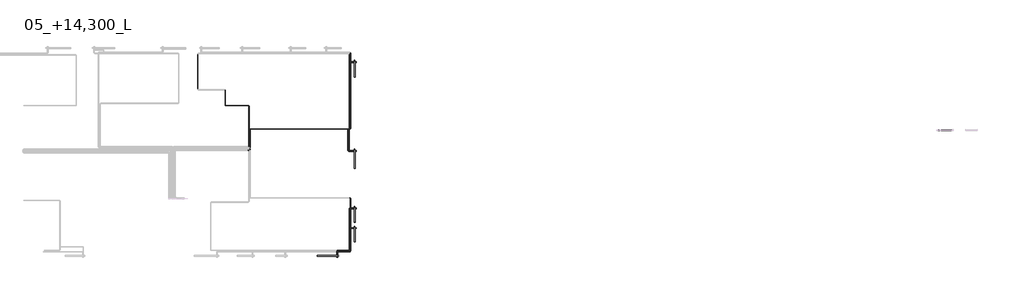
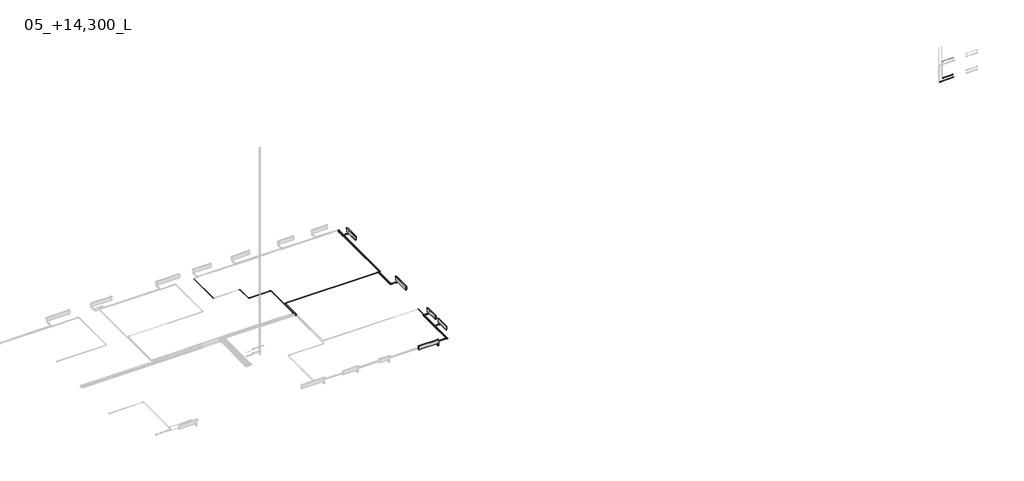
# One storey, part 11 of 15: 33 pipe fittings, 32 pipe segments, 5 proxies, 4 valves.
"""IFC4 building model written with IfcOpenShell, lengths in millimetres."""

from ifc_helpers import new_model, si_unit, point, frame, frame_2d, origin, place, context, project, spatial, circle_curve, trimmed, segment, composite_curve, outline, extrude, transform, mapped, element, save
from components import mechanical_equipment_c0c35615, mechanical_equipment_c68842d5, mechanical_equipment_da64a6a1, mechanical_equipment_6fadb864, pipe_fitting_44bd76dc, pipe_fitting_8f811e63, pipe_fitting_d927fdfb, valve_f5090433, valve_5b696a81, valve_31f837bc

model = new_model("IFC4")

# Units and contexts
model_context = context("Model", 3, world=origin())
ifc_project = project(units=[si_unit("LENGTHUNIT", "METRE", prefix="MILLI")], contexts=[model_context])

# Site, building, storey
site = spatial("IfcSite", under=ifc_project)
building = spatial("IfcBuilding", under=site)
storey = spatial("IfcBuildingStorey", under=building, Name="05_+14,300_L", Elevation=14300.0)

# Proxies
placement = place(None, origin())
mechanical_equipment_shape = mechanical_equipment_c0c35615(model_context)
element("IfcBuildingElementProxy", 1, Name="EVRA CV Д : 21-300-1600", ObjectType="EVRA CV Д : 21-300-1600", at=placement, inside=storey, context=model_context, shape_type="MappedRepresentation", body=[
    mapped(mechanical_equipment_shape, transform((80050.0, 112561.4631102, 14300.0), x_axis=(-1.0, 0.0, 0.0), y_axis=(0.0, -1.0, 0.0), z_axis=(0.0, 0.0, 1.0))),
])
mechanical_equipment_2_shape = mechanical_equipment_c68842d5(model_context)
element("IfcBuildingElementProxy", 2, Name="EVRA CV Д : 21-300-1400", ObjectType="EVRA CV Д : 21-300-1400", at=placement, inside=storey, context=model_context, shape_type="MappedRepresentation", body=[
    mapped(mechanical_equipment_2_shape, transform((81938.5368901, 120140.0000002, 14300.0), x_axis=(0.0, -1.0, 0.0), y_axis=(1.0, 0.0, 0.0), z_axis=(0.0, 0.0, 1.0))),
])
mechanical_equipment_3_shape = mechanical_equipment_da64a6a1(model_context)
element("IfcBuildingElementProxy", 3, Name="EVRA CV Д : 21-300-1200", ObjectType="EVRA CV Д : 21-300-1200", at=placement, inside=storey, context=model_context, shape_type="MappedRepresentation", body=[
    mapped(mechanical_equipment_3_shape, transform((81938.5368898, 127000.0, 14300.0), x_axis=(0.0, -1.0, 0.0), y_axis=(1.0, 0.0, 0.0), z_axis=(0.0, 0.0, 1.0))),
])
mechanical_equipment_4_shape = mechanical_equipment_6fadb864(model_context)
element("IfcBuildingElementProxy", 4, Name="EVRA CV Д : 21-300-1100", ObjectType="EVRA CV Д : 21-300-1100", at=placement, inside=storey, context=model_context, shape_type="MappedRepresentation", body=[
    mapped(mechanical_equipment_4_shape, transform((81938.5368898, 114400.0, 14300.0), x_axis=(0.0, -1.0, 0.0), y_axis=(1.0, 0.0, 0.0), z_axis=(0.0, 0.0, 1.0))),
])
element("IfcBuildingElementProxy", 5, Name="EVRA CV Д : 21-300-1100", ObjectType="EVRA CV Д : 21-300-1100", at=placement, inside=storey, context=model_context, shape_type="MappedRepresentation", body=[
    mapped(mechanical_equipment_4_shape, transform((81938.5368898, 115900.0, 14300.0), x_axis=(0.0, -1.0, 0.0), y_axis=(1.0, 0.0, 0.0), z_axis=(0.0, 0.0, 1.0))),
])

# Pipe fittings
pipe_fitting_shape = pipe_fitting_44bd76dc(model_context)
element("IfcPipeFitting", 6, ObjectType="ADSK_Пресс-фитинг ПЭ_Тройник : Пластик черный", at=placement, inside=storey, context=model_context, shape_type="MappedRepresentation", body=[
    mapped(pipe_fitting_shape, transform((81400.0000006, 122240.0, 14250.0), x_axis=(-1.0, 0.0, 0.0), y_axis=(0.0, 1.0, 0.0), z_axis=(0.0, 0.0, -1.0))),
])
element("IfcPipeFitting", 7, ObjectType="ADSK_Пресс-фитинг ПЭ_Тройник : Пластик черный", at=placement, inside=storey, context=model_context, shape_type="MappedRepresentation", body=[
    mapped(pipe_fitting_shape, transform((81600.0000006, 127320.0, 14250.0), x_axis=(0.0, -1.0, 0.0), y_axis=(-1.0, 0.0, 0.0), z_axis=(0.0, 0.0, -1.0))),
])
element("IfcPipeFitting", 8, ObjectType="ADSK_Пресс-фитинг ПЭ_Тройник : Пластик черный", at=placement, inside=storey, context=model_context, shape_type="MappedRepresentation", body=[
    mapped(pipe_fitting_shape, transform((81600.0000003, 116170.0, 14250.0), x_axis=(0.0, 1.0, 0.0), y_axis=(-1.0, 0.0, 0.0), z_axis=(0.0, 0.0, 1.0))),
])
element("IfcPipeFitting", 9, ObjectType="ADSK_Пресс-фитинг ПЭ_Тройник : Пластик черный", at=placement, inside=storey, context=model_context, shape_type="MappedRepresentation", body=[
    mapped(pipe_fitting_shape, transform((81500.0000006, 127370.0, 14250.0), x_axis=(0.0, 1.0, 0.0), y_axis=(-1.0, 0.0, 0.0), z_axis=(0.0, 0.0, 1.0))),
])
element("IfcPipeFitting", 10, ObjectType="ADSK_Пресс-фитинг ПЭ_Тройник : Пластик черный", at=placement, inside=storey, context=model_context, shape_type="MappedRepresentation", body=[
    mapped(pipe_fitting_shape, transform((81600.0000003, 114670.0, 14250.0), x_axis=(0.0, 1.0, 0.0), y_axis=(-1.0, 0.0, 0.0), z_axis=(0.0, 0.0, 1.0))),
])
element("IfcPipeFitting", 11, ObjectType="ADSK_Пресс-фитинг ПЭ_Тройник : Пластик черный", at=placement, inside=storey, context=model_context, shape_type="MappedRepresentation", body=[
    mapped(pipe_fitting_shape, transform((81500.0000003, 114720.0, 14250.0), x_axis=(0.0, 1.0, 0.0), y_axis=(-1.0, 0.0, 0.0), z_axis=(0.0, 0.0, 1.0))),
])
element("IfcPipeFitting", 12, ObjectType="ADSK_Пресс-фитинг ПЭ_Тройник : Пластик черный", at=placement, inside=storey, context=model_context, shape_type="MappedRepresentation", body=[
    mapped(pipe_fitting_shape, transform((80620.0, 113000.0, 14250.0), x_axis=(1.0, 0.0, 0.0), y_axis=(0.0, 1.0, 0.0), z_axis=(0.0, 0.0, 1.0))),
])
element("IfcPipeFitting", 13, ObjectType="ADSK_Пресс-фитинг ПЭ_Тройник : Пластик черный", at=placement, inside=storey, context=model_context, shape_type="MappedRepresentation", body=[
    mapped(pipe_fitting_shape, transform((80570.0, 112900.0, 14250.0), x_axis=(1.0, 0.0, 0.0), y_axis=(0.0, 1.0, 0.0), z_axis=(0.0, 0.0, 1.0))),
])
pipe_fitting_2_shape = pipe_fitting_8f811e63(model_context)
element("IfcPipeFitting", 14, ObjectType="ADSK_Пресс-фитинг ПЭ_Поворот с фиксатором : Поворот трубы", at=placement, inside=storey, context=model_context, shape_type="MappedRepresentation", body=[
    mapped(pipe_fitting_2_shape, transform((72070.0, 124028.4031807, 14250.0), x_axis=(0.0, -1.0, 0.0), y_axis=(1.0, 0.0, 0.0), z_axis=(0.0, 0.0, 1.0))),
])
element("IfcPipeFitting", 15, ObjectType="ADSK_Пресс-фитинг ПЭ_Поворот с фиксатором : Поворот трубы", at=placement, inside=storey, context=model_context, shape_type="MappedRepresentation", body=[
    mapped(pipe_fitting_2_shape, transform((72070.0, 125228.4031807, 14250.0), x_axis=(0.0, 1.0, 0.0), y_axis=(-1.0, 0.0, 0.0), z_axis=(0.0, 0.0, 1.0))),
])
element("IfcPipeFitting", 16, ObjectType="ADSK_Пресс-фитинг ПЭ_Поворот с фиксатором : Поворот трубы", at=placement, inside=storey, context=model_context, shape_type="MappedRepresentation", body=[
    mapped(pipe_fitting_2_shape, transform((81600.0000006, 122240.0, 14250.0), x_axis=(1.0, 0.0, 0.0), y_axis=(0.0, 1.0, 0.0), z_axis=(0.0, 0.0, 1.0))),
])
element("IfcPipeFitting", 17, ObjectType="ADSK_Пресс-фитинг ПЭ_Поворот с фиксатором : Поворот трубы", at=placement, inside=storey, context=model_context, shape_type="MappedRepresentation", body=[
    mapped(pipe_fitting_2_shape, transform((81600.0000003, 117005.0000002, 14250.0), x_axis=(0.0, 1.0, 0.0), y_axis=(-1.0, 0.0, 0.0), z_axis=(0.0, 0.0, 1.0))),
])
element("IfcPipeFitting", 18, ObjectType="ADSK_Пресс-фитинг ПЭ_Поворот с фиксатором : Поворот трубы", at=placement, inside=storey, context=model_context, shape_type="MappedRepresentation", body=[
    mapped(pipe_fitting_2_shape, transform((81500.0000003, 113000.0, 14250.0), x_axis=(1.0, 0.0, 0.0), y_axis=(0.0, 1.0, 0.0), z_axis=(0.0, 0.0, 1.0))),
])
element("IfcPipeFitting", 19, ObjectType="ADSK_Пресс-фитинг ПЭ_Поворот с фиксатором : Поворот трубы", at=placement, inside=storey, context=model_context, shape_type="MappedRepresentation", body=[
    mapped(pipe_fitting_2_shape, transform((81600.0000003, 112900.0, 14250.0), x_axis=(1.0, 0.0, 0.0), y_axis=(0.0, 1.0, 0.0), z_axis=(0.0, 0.0, 1.0))),
])
element("IfcPipeFitting", 20, ObjectType="ADSK_Пресс-фитинг ПЭ_Поворот с фиксатором : Поворот трубы", at=placement, inside=storey, context=model_context, shape_type="MappedRepresentation", body=[
    mapped(pipe_fitting_2_shape, transform((73870.0, 120921.8369308, 14250.0), x_axis=(1.0, 0.0, 0.0), y_axis=(0.0, 1.0, 0.0), z_axis=(0.0, 0.0, 1.0))),
])
element("IfcPipeFitting", 21, ObjectType="ADSK_Пресс-фитинг ПЭ_Поворот с фиксатором : Поворот трубы", at=placement, inside=storey, context=model_context, shape_type="MappedRepresentation", body=[
    mapped(pipe_fitting_2_shape, transform((73870.0, 124028.4031807, 14250.0), x_axis=(0.0, 1.0, 0.0), y_axis=(-1.0, 0.0, 0.0), z_axis=(0.0, 0.0, 1.0))),
])
element("IfcPipeFitting", 22, ObjectType="ADSK_Пресс-фитинг ПЭ_Поворот с фиксатором : Поворот трубы", at=placement, inside=storey, context=model_context, shape_type="MappedRepresentation", body=[
    mapped(pipe_fitting_2_shape, transform((73970.0, 120821.8369308, 14250.0), x_axis=(1.0, 0.0, 0.0), y_axis=(0.0, 1.0, 0.0), z_axis=(0.0, 0.0, 1.0))),
])
element("IfcPipeFitting", 23, ObjectType="ADSK_Пресс-фитинг ПЭ_Поворот с фиксатором : Поворот трубы", at=placement, inside=storey, context=model_context, shape_type="MappedRepresentation", body=[
    mapped(pipe_fitting_2_shape, transform((73970.0, 122240.0, 14250.0), x_axis=(-1.0, 0.0, 0.0), y_axis=(0.0, -1.0, 0.0), z_axis=(0.0, 0.0, 1.0))),
])
element("IfcPipeFitting", 24, ObjectType="ADSK_Пресс-фитинг ПЭ_Поворот с фиксатором : Поворот трубы", at=placement, inside=storey, context=model_context, shape_type="MappedRepresentation", body=[
    mapped(pipe_fitting_2_shape, transform((73970.0, 120721.8369308, 14250.0), x_axis=(0.0, 1.0, 0.0), y_axis=(-1.0, 0.0, 0.0), z_axis=(0.0, 0.0, 1.0))),
])
element("IfcPipeFitting", 25, ObjectType="ADSK_Пресс-фитинг ПЭ_Поворот с фиксатором : Поворот трубы", at=placement, inside=storey, context=model_context, shape_type="MappedRepresentation", body=[
    mapped(pipe_fitting_2_shape, transform((73870.0, 120621.8369308, 14250.0), x_axis=(0.0, 1.0, 0.0), y_axis=(-1.0, 0.0, 0.0), z_axis=(0.0, 0.0, 1.0))),
])
element("IfcPipeFitting", 26, ObjectType="ADSK_Пресс-фитинг ПЭ_Поворот с фиксатором : Поворот трубы", at=placement, inside=storey, context=model_context, shape_type="MappedRepresentation", body=[
    mapped(pipe_fitting_2_shape, transform((81400.0000006, 120560.0000002, 14250.0), x_axis=(0.0, -1.0, 0.0), y_axis=(1.0, 0.0, 0.0), z_axis=(0.0, 0.0, 1.0))),
])
element("IfcPipeFitting", 27, ObjectType="ADSK_Пресс-фитинг ПЭ_Поворот с фиксатором : Поворот трубы", at=placement, inside=storey, context=model_context, shape_type="MappedRepresentation", body=[
    mapped(pipe_fitting_2_shape, transform((81500.0000006, 120610.0000002, 14250.0), x_axis=(0.0, -1.0, 0.0), y_axis=(1.0, 0.0, 0.0), z_axis=(0.0, 0.0, 1.0))),
])
element("IfcPipeFitting", 28, ObjectType="ADSK_Пресс-фитинг ПЭ_Поворот с фиксатором : Поворот трубы", at=placement, inside=storey, context=model_context, shape_type="MappedRepresentation", body=[
    mapped(pipe_fitting_2_shape, transform((81500.0000003, 116220.0, 14250.0), x_axis=(-1.0, 0.0, 0.0), y_axis=(0.0, -1.0, 0.0), z_axis=(0.0, 0.0, 1.0))),
])
pipe_fitting_3_shape = pipe_fitting_d927fdfb(model_context)
element("IfcPipeFitting", 29, ObjectType="Трубка Г-образная VTm.481.PC из стены : VTm.481.PC", at=placement, inside=storey, context=model_context, shape_type="MappedRepresentation", body=[
    mapped(pipe_fitting_3_shape, transform((81988.0, 127370.0, 14250.0), x_axis=(0.0, -1.0, 0.0), y_axis=(1.0, 0.0, 0.0), z_axis=(0.0, 0.0, 1.0))),
])
element("IfcPipeFitting", 30, ObjectType="Трубка Г-образная VTm.481.PC из стены : VTm.481.PC", at=placement, inside=storey, context=model_context, shape_type="MappedRepresentation", body=[
    mapped(pipe_fitting_3_shape, transform((81988.0, 114720.0, 14250.0), x_axis=(0.0, -1.0, 0.0), y_axis=(1.0, 0.0, 0.0), z_axis=(0.0, 0.0, 1.0))),
])
element("IfcPipeFitting", 31, ObjectType="Трубка Г-образная VTm.481.PC из стены : VTm.481.PC", at=placement, inside=storey, context=model_context, shape_type="MappedRepresentation", body=[
    mapped(pipe_fitting_3_shape, transform((80620.0, 112512.0, 14250.0), x_axis=(-1.0, 0.0, 0.0), y_axis=(0.0, -1.0, 0.0), z_axis=(0.0, 0.0, 1.0))),
])
element("IfcPipeFitting", 32, ObjectType="Трубка Г-образная VTm.481.PC из стены : VTm.481.PC", at=placement, inside=storey, context=model_context, shape_type="MappedRepresentation", body=[
    mapped(pipe_fitting_3_shape, transform((81988.0000003, 120610.0000002, 14250.0), x_axis=(0.0, -1.0, 0.0), y_axis=(1.0, 0.0, 0.0), z_axis=(0.0, 0.0, 1.0))),
])
element("IfcPipeFitting", 33, ObjectType="Трубка Г-образная VTm.481.PC из стены : VTm.481.PC", at=placement, inside=storey, context=model_context, shape_type="MappedRepresentation", body=[
    mapped(pipe_fitting_3_shape, transform((81988.0, 116220.0, 14250.0), x_axis=(0.0, -1.0, 0.0), y_axis=(1.0, 0.0, 0.0), z_axis=(0.0, 0.0, 1.0))),
])
element("IfcPipeFitting", 34, ObjectType="Трубка Г-образная VTm.481.PC из стены : VTm.481.PC", at=placement, inside=storey, context=model_context, shape_type="MappedRepresentation", body=[
    mapped(pipe_fitting_3_shape, transform((81988.0, 127320.0, 14250.0), x_axis=(0.0, -1.0, 0.0), y_axis=(1.0, 0.0, 0.0), z_axis=(0.0, 0.0, 1.0))),
])
element("IfcPipeFitting", 35, ObjectType="Трубка Г-образная VTm.481.PC из стены : VTm.481.PC", at=placement, inside=storey, context=model_context, shape_type="MappedRepresentation", body=[
    mapped(pipe_fitting_3_shape, transform((81988.0, 114670.0, 14250.0), x_axis=(0.0, -1.0, 0.0), y_axis=(1.0, 0.0, 0.0), z_axis=(0.0, 0.0, 1.0))),
])
element("IfcPipeFitting", 36, ObjectType="Трубка Г-образная VTm.481.PC из стены : VTm.481.PC", at=placement, inside=storey, context=model_context, shape_type="MappedRepresentation", body=[
    mapped(pipe_fitting_3_shape, transform((80570.0, 112512.0, 14250.0), x_axis=(-1.0, 0.0, 0.0), y_axis=(0.0, -1.0, 0.0), z_axis=(0.0, 0.0, 1.0))),
])
element("IfcPipeFitting", 37, ObjectType="Трубка Г-образная VTm.481.PC из стены : VTm.481.PC", at=placement, inside=storey, context=model_context, shape_type="MappedRepresentation", body=[
    mapped(pipe_fitting_3_shape, transform((81988.0000003, 120560.0000002, 14250.0), x_axis=(0.0, -1.0, 0.0), y_axis=(1.0, 0.0, 0.0), z_axis=(0.0, 0.0, 1.0))),
])
element("IfcPipeFitting", 38, ObjectType="Трубка Г-образная VTm.481.PC из стены : VTm.481.PC", at=placement, inside=storey, context=model_context, shape_type="MappedRepresentation", body=[
    mapped(pipe_fitting_3_shape, transform((81988.0, 116170.0, 14250.0), x_axis=(0.0, -1.0, 0.0), y_axis=(1.0, 0.0, 0.0), z_axis=(0.0, 0.0, 1.0))),
])

# Pipe segments
element("IfcPipeSegment", 39, ObjectType="ADSK_Полиэтилен сшитый", at=placement, inside=storey, context=model_context, shape_type="SweptSolid", body=[
    extrude(outline(composite_curve([segment(trimmed(circle_curve(frame_2d((14250.0, 81500.0000003)), 8.0), [point((14250.0, 81508.0000003))], [point((14258.0, 81500.0000003))], False, "CARTESIAN"), True, "CONTINUOUS"), segment(trimmed(circle_curve(frame_2d((14250.0, 81500.0000003)), 8.0), [point((14258.0, 81500.0000003))], [point((14250.0, 81492.0000003))], False, "CARTESIAN"), True, "CONTINUOUS"), segment(trimmed(circle_curve(frame_2d((14250.0, 81500.0000003)), 8.0), [point((14250.0, 81492.0000003))], [point((14242.0, 81500.0000003))], False, "CARTESIAN"), True, "CONTINUOUS"), segment(trimmed(circle_curve(frame_2d((14250.0, 81500.0000003)), 8.0), [point((14242.0, 81500.0000003))], [point((14250.0, 81508.0000003))], False, "CARTESIAN"), True, "CONTINUOUS")], self_intersect=False)), frame((0.0, 114740.0, 0.0), z_axis=(0.0, 1.0, 0.0), x_axis=(0.0, 0.0, 1.0)), (0.0, 0.0, 1.0), 1432.0),
])
element("IfcPipeSegment", 40, ObjectType="ADSK_Полиэтилен сшитый", at=placement, inside=storey, context=model_context, shape_type="SweptSolid", body=[
    extrude(outline(composite_curve([segment(trimmed(circle_curve(frame_2d((14250.0, 81600.0000006)), 8.0), [point((14250.0, 81608.0000006))], [point((14258.0, 81600.0000006))], False, "CARTESIAN"), True, "CONTINUOUS"), segment(trimmed(circle_curve(frame_2d((14250.0, 81600.0000006)), 8.0), [point((14258.0, 81600.0000006))], [point((14250.0, 81592.0000006))], False, "CARTESIAN"), True, "CONTINUOUS"), segment(trimmed(circle_curve(frame_2d((14250.0, 81600.0000006)), 8.0), [point((14250.0, 81592.0000006))], [point((14242.0, 81600.0000006))], False, "CARTESIAN"), True, "CONTINUOUS"), segment(trimmed(circle_curve(frame_2d((14250.0, 81600.0000006)), 8.0), [point((14242.0, 81600.0000006))], [point((14250.0, 81608.0000006))], False, "CARTESIAN"), True, "CONTINUOUS")], self_intersect=False)), frame((0.0, 127340.0, 0.0), z_axis=(0.0, 1.0, 0.0), x_axis=(0.0, 0.0, 1.0)), (0.0, 0.0, 1.0), 712.0),
])
element("IfcPipeSegment", 41, ObjectType="ADSK_Полиэтилен сшитый", at=placement, inside=storey, context=model_context, shape_type="SweptSolid", body=[
    extrude(outline(composite_curve([segment(trimmed(circle_curve(frame_2d((14250.0, 73870.0)), 8.0), [point((14250.0, 73878.0))], [point((14258.0, 73870.0))], False, "CARTESIAN"), True, "CONTINUOUS"), segment(trimmed(circle_curve(frame_2d((14250.0, 73870.0)), 8.0), [point((14258.0, 73870.0))], [point((14250.0, 73862.0))], False, "CARTESIAN"), True, "CONTINUOUS"), segment(trimmed(circle_curve(frame_2d((14250.0, 73870.0)), 8.0), [point((14250.0, 73862.0))], [point((14242.0, 73870.0))], False, "CARTESIAN"), True, "CONTINUOUS"), segment(trimmed(circle_curve(frame_2d((14250.0, 73870.0)), 8.0), [point((14242.0, 73870.0))], [point((14250.0, 73878.0))], False, "CARTESIAN"), True, "CONTINUOUS")], self_intersect=False)), frame((0.0, 120969.8369308, 0.0), z_axis=(0.0, 1.0, 0.0), x_axis=(0.0, 0.0, 1.0)), (0.0, 0.0, 1.0), 3010.5662499),
])
element("IfcPipeSegment", 42, ObjectType="ADSK_Полиэтилен сшитый", at=placement, inside=storey, context=model_context, shape_type="SweptSolid", body=[
    extrude(outline(composite_curve([segment(trimmed(circle_curve(frame_2d((124028.4031807, 14250.0)), 8.0), [point((124036.4031807, 14250.0))], [point((124028.4031807, 14242.0))], False, "CARTESIAN"), True, "CONTINUOUS"), segment(trimmed(circle_curve(frame_2d((124028.4031807, 14250.0)), 8.0), [point((124028.4031807, 14242.0))], [point((124020.4031807, 14250.0))], False, "CARTESIAN"), True, "CONTINUOUS"), segment(trimmed(circle_curve(frame_2d((124028.4031807, 14250.0)), 8.0), [point((124020.4031807, 14250.0))], [point((124028.4031807, 14258.0))], False, "CARTESIAN"), True, "CONTINUOUS"), segment(trimmed(circle_curve(frame_2d((124028.4031807, 14250.0)), 8.0), [point((124028.4031807, 14258.0))], [point((124036.4031807, 14250.0))], False, "CARTESIAN"), True, "CONTINUOUS")], self_intersect=False)), frame((72118.0, 0.0, 0.0), z_axis=(1.0, 0.0, 0.0), x_axis=(0.0, 1.0, 0.0)), (0.0, 0.0, 1.0), 1704.0),
])
element("IfcPipeSegment", 43, ObjectType="ADSK_Полиэтилен сшитый", at=placement, inside=storey, context=model_context, shape_type="SweptSolid", body=[
    extrude(outline(composite_curve([segment(trimmed(circle_curve(frame_2d((14250.0, 72070.0)), 8.0), [point((14250.0, 72078.0))], [point((14258.0, 72070.0))], False, "CARTESIAN"), True, "CONTINUOUS"), segment(trimmed(circle_curve(frame_2d((14250.0, 72070.0)), 8.0), [point((14258.0, 72070.0))], [point((14250.0, 72062.0))], False, "CARTESIAN"), True, "CONTINUOUS"), segment(trimmed(circle_curve(frame_2d((14250.0, 72070.0)), 8.0), [point((14250.0, 72062.0))], [point((14242.0, 72070.0))], False, "CARTESIAN"), True, "CONTINUOUS"), segment(trimmed(circle_curve(frame_2d((14250.0, 72070.0)), 8.0), [point((14242.0, 72070.0))], [point((14250.0, 72078.0))], False, "CARTESIAN"), True, "CONTINUOUS")], self_intersect=False)), frame((0.0, 124076.4031807, 0.0), z_axis=(0.0, 1.0, 0.0), x_axis=(0.0, 0.0, 1.0)), (0.0, 0.0, 1.0), 1104.0),
])
element("IfcPipeSegment", 44, ObjectType="ADSK_Полиэтилен сшитый", at=placement, inside=storey, context=model_context, shape_type="SweptSolid", body=[
    extrude(outline(composite_curve([segment(trimmed(circle_curve(frame_2d((14250.0, 69970.0)), 8.0), [point((14250.0, 69978.0))], [point((14258.0, 69970.0))], False, "CARTESIAN"), True, "CONTINUOUS"), segment(trimmed(circle_curve(frame_2d((14250.0, 69970.0)), 8.0), [point((14258.0, 69970.0))], [point((14250.0, 69962.0))], False, "CARTESIAN"), True, "CONTINUOUS"), segment(trimmed(circle_curve(frame_2d((14250.0, 69970.0)), 8.0), [point((14250.0, 69962.0))], [point((14242.0, 69970.0))], False, "CARTESIAN"), True, "CONTINUOUS"), segment(trimmed(circle_curve(frame_2d((14250.0, 69970.0)), 8.0), [point((14242.0, 69970.0))], [point((14250.0, 69978.0))], False, "CARTESIAN"), True, "CONTINUOUS")], self_intersect=False)), frame((0.0, 125276.4031807, 0.0), z_axis=(0.0, 1.0, 0.0), x_axis=(0.0, 0.0, 1.0)), (0.0, 0.0, 1.0), 2675.5968193),
])
element("IfcPipeSegment", 45, ObjectType="ADSK_Полиэтилен сшитый", at=placement, inside=storey, context=model_context, shape_type="SweptSolid", body=[
    extrude(outline(composite_curve([segment(trimmed(circle_curve(frame_2d((14250.0, 73970.0)), 8.0), [point((14250.0, 73978.0))], [point((14258.0, 73970.0))], False, "CARTESIAN"), True, "CONTINUOUS"), segment(trimmed(circle_curve(frame_2d((14250.0, 73970.0)), 8.0), [point((14258.0, 73970.0))], [point((14250.0, 73962.0))], False, "CARTESIAN"), True, "CONTINUOUS"), segment(trimmed(circle_curve(frame_2d((14250.0, 73970.0)), 8.0), [point((14250.0, 73962.0))], [point((14242.0, 73970.0))], False, "CARTESIAN"), True, "CONTINUOUS"), segment(trimmed(circle_curve(frame_2d((14250.0, 73970.0)), 8.0), [point((14242.0, 73970.0))], [point((14250.0, 73978.0))], False, "CARTESIAN"), True, "CONTINUOUS")], self_intersect=False)), frame((0.0, 120869.8369308, 0.0), z_axis=(0.0, 1.0, 0.0), x_axis=(0.0, 0.0, 1.0)), (0.0, 0.0, 1.0), 1322.1630692),
])
element("IfcPipeSegment", 46, ObjectType="ADSK_Полиэтилен сшитый", at=placement, inside=storey, context=model_context, shape_type="SweptSolid", body=[
    extrude(outline(composite_curve([segment(trimmed(circle_curve(frame_2d((120560.0000002, 14250.0)), 8.0), [point((120552.0000002, 14250.0))], [point((120560.0000002, 14258.0))], False, "CARTESIAN"), True, "CONTINUOUS"), segment(trimmed(circle_curve(frame_2d((120560.0000002, 14250.0)), 8.0), [point((120560.0000002, 14258.0))], [point((120568.0000002, 14250.0))], False, "CARTESIAN"), True, "CONTINUOUS"), segment(trimmed(circle_curve(frame_2d((120560.0000002, 14250.0)), 8.0), [point((120568.0000002, 14250.0))], [point((120560.0000002, 14242.0))], False, "CARTESIAN"), True, "CONTINUOUS"), segment(trimmed(circle_curve(frame_2d((120560.0000002, 14250.0)), 8.0), [point((120560.0000002, 14242.0))], [point((120552.0000002, 14250.0))], False, "CARTESIAN"), True, "CONTINUOUS")], self_intersect=False)), frame((81448.0000006, 0.0, 0.0), z_axis=(1.0, 0.0, 0.0), x_axis=(0.0, 1.0, 0.0)), (0.0, 0.0, 1.0), 424.9999997),
])
element("IfcPipeSegment", 47, ObjectType="ADSK_Полиэтилен сшитый", at=placement, inside=storey, context=model_context, shape_type="SweptSolid", body=[
    extrude(outline(composite_curve([segment(trimmed(circle_curve(frame_2d((14250.0, 81400.0000006)), 8.0), [point((14250.0, 81408.0000006))], [point((14258.0, 81400.0000006))], False, "CARTESIAN"), True, "CONTINUOUS"), segment(trimmed(circle_curve(frame_2d((14250.0, 81400.0000006)), 8.0), [point((14258.0, 81400.0000006))], [point((14250.0, 81392.0000006))], False, "CARTESIAN"), True, "CONTINUOUS"), segment(trimmed(circle_curve(frame_2d((14250.0, 81400.0000006)), 8.0), [point((14250.0, 81392.0000006))], [point((14242.0, 81400.0000006))], False, "CARTESIAN"), True, "CONTINUOUS"), segment(trimmed(circle_curve(frame_2d((14250.0, 81400.0000006)), 8.0), [point((14242.0, 81400.0000006))], [point((14250.0, 81408.0000006))], False, "CARTESIAN"), True, "CONTINUOUS")], self_intersect=False)), frame((0.0, 120608.0000002, 0.0), z_axis=(0.0, 1.0, 0.0), x_axis=(0.0, 0.0, 1.0)), (0.0, 0.0, 1.0), 1607.9999998),
])
element("IfcPipeSegment", 48, ObjectType="ADSK_Полиэтилен сшитый", at=placement, inside=storey, context=model_context, shape_type="SweptSolid", body=[
    extrude(outline(composite_curve([segment(trimmed(circle_curve(frame_2d((122240.0, 14250.0)), 8.0), [point((122232.0, 14250.0))], [point((122240.0, 14258.0))], False, "CARTESIAN"), True, "CONTINUOUS"), segment(trimmed(circle_curve(frame_2d((122240.0, 14250.0)), 8.0), [point((122240.0, 14258.0))], [point((122248.0, 14250.0))], False, "CARTESIAN"), True, "CONTINUOUS"), segment(trimmed(circle_curve(frame_2d((122240.0, 14250.0)), 8.0), [point((122248.0, 14250.0))], [point((122240.0, 14242.0))], False, "CARTESIAN"), True, "CONTINUOUS"), segment(trimmed(circle_curve(frame_2d((122240.0, 14250.0)), 8.0), [point((122240.0, 14242.0))], [point((122232.0, 14250.0))], False, "CARTESIAN"), True, "CONTINUOUS")], self_intersect=False)), frame((81419.0000006, 0.0, 0.0), z_axis=(1.0, 0.0, 0.0), x_axis=(0.0, 1.0, 0.0)), (0.0, 0.0, 1.0), 133.0),
])
element("IfcPipeSegment", 49, ObjectType="ADSK_Полиэтилен сшитый", at=placement, inside=storey, context=model_context, shape_type="SweptSolid", body=[
    extrude(outline(composite_curve([segment(trimmed(circle_curve(frame_2d((122240.0, 14250.0)), 8.0), [point((122232.0, 14250.0))], [point((122240.0, 14258.0))], False, "CARTESIAN"), True, "CONTINUOUS"), segment(trimmed(circle_curve(frame_2d((122240.0, 14250.0)), 8.0), [point((122240.0, 14258.0))], [point((122248.0, 14250.0))], False, "CARTESIAN"), True, "CONTINUOUS"), segment(trimmed(circle_curve(frame_2d((122240.0, 14250.0)), 8.0), [point((122248.0, 14250.0))], [point((122240.0, 14242.0))], False, "CARTESIAN"), True, "CONTINUOUS"), segment(trimmed(circle_curve(frame_2d((122240.0, 14250.0)), 8.0), [point((122240.0, 14242.0))], [point((122232.0, 14250.0))], False, "CARTESIAN"), True, "CONTINUOUS")], self_intersect=False)), frame((74018.0, 0.0, 0.0), z_axis=(1.0, 0.0, 0.0), x_axis=(0.0, 1.0, 0.0)), (0.0, 0.0, 1.0), 7362.0000006),
])
element("IfcPipeSegment", 50, ObjectType="ADSK_Полиэтилен сшитый", at=placement, inside=storey, context=model_context, shape_type="SweptSolid", body=[
    extrude(outline(composite_curve([segment(trimmed(circle_curve(frame_2d((120610.0000002, 14250.0)), 8.0), [point((120602.0000002, 14250.0))], [point((120610.0000002, 14258.0))], False, "CARTESIAN"), True, "CONTINUOUS"), segment(trimmed(circle_curve(frame_2d((120610.0000002, 14250.0)), 8.0), [point((120610.0000002, 14258.0))], [point((120618.0000002, 14250.0))], False, "CARTESIAN"), True, "CONTINUOUS"), segment(trimmed(circle_curve(frame_2d((120610.0000002, 14250.0)), 8.0), [point((120618.0000002, 14250.0))], [point((120610.0000002, 14242.0))], False, "CARTESIAN"), True, "CONTINUOUS"), segment(trimmed(circle_curve(frame_2d((120610.0000002, 14250.0)), 8.0), [point((120610.0000002, 14242.0))], [point((120602.0000002, 14250.0))], False, "CARTESIAN"), True, "CONTINUOUS")], self_intersect=False)), frame((81548.0000006, 0.0, 0.0), z_axis=(1.0, 0.0, 0.0), x_axis=(0.0, 1.0, 0.0)), (0.0, 0.0, 1.0), 324.9999997),
])
element("IfcPipeSegment", 51, ObjectType="ADSK_Полиэтилен сшитый", at=placement, inside=storey, context=model_context, shape_type="SweptSolid", body=[
    extrude(outline(composite_curve([segment(trimmed(circle_curve(frame_2d((14250.0, 81500.0000006)), 8.0), [point((14250.0, 81492.0000006))], [point((14242.0, 81500.0000006))], False, "CARTESIAN"), True, "CONTINUOUS"), segment(trimmed(circle_curve(frame_2d((14250.0, 81500.0000006)), 8.0), [point((14242.0, 81500.0000006))], [point((14250.0, 81508.0000006))], False, "CARTESIAN"), True, "CONTINUOUS"), segment(trimmed(circle_curve(frame_2d((14250.0, 81500.0000006)), 8.0), [point((14250.0, 81508.0000006))], [point((14258.0, 81500.0000006))], False, "CARTESIAN"), True, "CONTINUOUS"), segment(trimmed(circle_curve(frame_2d((14250.0, 81500.0000006)), 8.0), [point((14258.0, 81500.0000006))], [point((14250.0, 81492.0000006))], False, "CARTESIAN"), True, "CONTINUOUS")], self_intersect=False)), frame((0.0, 120658.0000002, 0.0), z_axis=(0.0, 1.0, 0.0), x_axis=(0.0, 0.0, 1.0)), (0.0, 0.0, 1.0), 6691.9999998),
])
element("IfcPipeSegment", 52, ObjectType="ADSK_Полиэтилен сшитый", at=placement, inside=storey, context=model_context, shape_type="SweptSolid", body=[
    extrude(outline(composite_curve([segment(trimmed(circle_curve(frame_2d((127320.0, 14250.0)), 8.0), [point((127312.0, 14250.0))], [point((127320.0, 14258.0))], False, "CARTESIAN"), True, "CONTINUOUS"), segment(trimmed(circle_curve(frame_2d((127320.0, 14250.0)), 8.0), [point((127320.0, 14258.0))], [point((127328.0, 14250.0))], False, "CARTESIAN"), True, "CONTINUOUS"), segment(trimmed(circle_curve(frame_2d((127320.0, 14250.0)), 8.0), [point((127328.0, 14250.0))], [point((127320.0, 14242.0))], False, "CARTESIAN"), True, "CONTINUOUS"), segment(trimmed(circle_curve(frame_2d((127320.0, 14250.0)), 8.0), [point((127320.0, 14242.0))], [point((127312.0, 14250.0))], False, "CARTESIAN"), True, "CONTINUOUS")], self_intersect=False)), frame((81624.0000006, 0.0, 0.0), z_axis=(1.0, 0.0, 0.0), x_axis=(0.0, 1.0, 0.0)), (0.0, 0.0, 1.0), 248.9999994),
])
element("IfcPipeSegment", 53, ObjectType="ADSK_Полиэтилен сшитый", at=placement, inside=storey, context=model_context, shape_type="SweptSolid", body=[
    extrude(outline(composite_curve([segment(trimmed(circle_curve(frame_2d((14250.0, 81600.0000006)), 8.0), [point((14250.0, 81608.0000006))], [point((14258.0, 81600.0000006))], False, "CARTESIAN"), True, "CONTINUOUS"), segment(trimmed(circle_curve(frame_2d((14250.0, 81600.0000006)), 8.0), [point((14258.0, 81600.0000006))], [point((14250.0, 81592.0000006))], False, "CARTESIAN"), True, "CONTINUOUS"), segment(trimmed(circle_curve(frame_2d((14250.0, 81600.0000006)), 8.0), [point((14250.0, 81592.0000006))], [point((14242.0, 81600.0000006))], False, "CARTESIAN"), True, "CONTINUOUS"), segment(trimmed(circle_curve(frame_2d((14250.0, 81600.0000006)), 8.0), [point((14242.0, 81600.0000006))], [point((14250.0, 81608.0000006))], False, "CARTESIAN"), True, "CONTINUOUS")], self_intersect=False)), frame((0.0, 122288.0, 0.0), z_axis=(0.0, 1.0, 0.0), x_axis=(0.0, 0.0, 1.0)), (0.0, 0.0, 1.0), 5012.0),
])
element("IfcPipeSegment", 54, ObjectType="ADSK_Полиэтилен сшитый", at=placement, inside=storey, context=model_context, shape_type="SweptSolid", body=[
    extrude(outline(composite_curve([segment(trimmed(circle_curve(frame_2d((127370.0, 14250.0)), 8.0), [point((127362.0, 14250.0))], [point((127370.0, 14258.0))], False, "CARTESIAN"), True, "CONTINUOUS"), segment(trimmed(circle_curve(frame_2d((127370.0, 14250.0)), 8.0), [point((127370.0, 14258.0))], [point((127378.0, 14250.0))], False, "CARTESIAN"), True, "CONTINUOUS"), segment(trimmed(circle_curve(frame_2d((127370.0, 14250.0)), 8.0), [point((127378.0, 14250.0))], [point((127370.0, 14242.0))], False, "CARTESIAN"), True, "CONTINUOUS"), segment(trimmed(circle_curve(frame_2d((127370.0, 14250.0)), 8.0), [point((127370.0, 14242.0))], [point((127362.0, 14250.0))], False, "CARTESIAN"), True, "CONTINUOUS")], self_intersect=False)), frame((81524.0000006, 0.0, 0.0), z_axis=(1.0, 0.0, 0.0), x_axis=(0.0, 1.0, 0.0)), (0.0, 0.0, 1.0), 348.9999994),
])
element("IfcPipeSegment", 55, ObjectType="ADSK_Полиэтилен сшитый", at=placement, inside=storey, context=model_context, shape_type="SweptSolid", body=[
    extrude(outline(composite_curve([segment(trimmed(circle_curve(frame_2d((116170.0, 14250.0)), 8.0), [point((116162.0, 14250.0))], [point((116170.0, 14258.0))], False, "CARTESIAN"), True, "CONTINUOUS"), segment(trimmed(circle_curve(frame_2d((116170.0, 14250.0)), 8.0), [point((116170.0, 14258.0))], [point((116178.0, 14250.0))], False, "CARTESIAN"), True, "CONTINUOUS"), segment(trimmed(circle_curve(frame_2d((116170.0, 14250.0)), 8.0), [point((116178.0, 14250.0))], [point((116170.0, 14242.0))], False, "CARTESIAN"), True, "CONTINUOUS"), segment(trimmed(circle_curve(frame_2d((116170.0, 14250.0)), 8.0), [point((116170.0, 14242.0))], [point((116162.0, 14250.0))], False, "CARTESIAN"), True, "CONTINUOUS")], self_intersect=False)), frame((81624.0000003, 0.0, 0.0), z_axis=(1.0, 0.0, 0.0), x_axis=(0.0, 1.0, 0.0)), (0.0, 0.0, 1.0), 248.9999997),
])
element("IfcPipeSegment", 56, ObjectType="ADSK_Полиэтилен сшитый", at=placement, inside=storey, context=model_context, shape_type="SweptSolid", body=[
    extrude(outline(composite_curve([segment(trimmed(circle_curve(frame_2d((14250.0, 81600.0000003)), 8.0), [point((14250.0, 81592.0000003))], [point((14242.0, 81600.0000003))], False, "CARTESIAN"), True, "CONTINUOUS"), segment(trimmed(circle_curve(frame_2d((14250.0, 81600.0000003)), 8.0), [point((14242.0, 81600.0000003))], [point((14250.0, 81608.0000003))], False, "CARTESIAN"), True, "CONTINUOUS"), segment(trimmed(circle_curve(frame_2d((14250.0, 81600.0000003)), 8.0), [point((14250.0, 81608.0000003))], [point((14258.0, 81600.0000003))], False, "CARTESIAN"), True, "CONTINUOUS"), segment(trimmed(circle_curve(frame_2d((14250.0, 81600.0000003)), 8.0), [point((14258.0, 81600.0000003))], [point((14250.0, 81592.0000003))], False, "CARTESIAN"), True, "CONTINUOUS")], self_intersect=False)), frame((0.0, 116190.0, 0.0), z_axis=(0.0, 1.0, 0.0), x_axis=(0.0, 0.0, 1.0)), (0.0, 0.0, 1.0), 767.0000002),
])
element("IfcPipeSegment", 57, ObjectType="ADSK_Полиэтилен сшитый", at=placement, inside=storey, context=model_context, shape_type="SweptSolid", body=[
    extrude(outline(composite_curve([segment(trimmed(circle_curve(frame_2d((116220.0, 14250.0)), 8.0), [point((116212.0, 14250.0))], [point((116220.0, 14258.0))], False, "CARTESIAN"), True, "CONTINUOUS"), segment(trimmed(circle_curve(frame_2d((116220.0, 14250.0)), 8.0), [point((116220.0, 14258.0))], [point((116228.0, 14250.0))], False, "CARTESIAN"), True, "CONTINUOUS"), segment(trimmed(circle_curve(frame_2d((116220.0, 14250.0)), 8.0), [point((116228.0, 14250.0))], [point((116220.0, 14242.0))], False, "CARTESIAN"), True, "CONTINUOUS"), segment(trimmed(circle_curve(frame_2d((116220.0, 14250.0)), 8.0), [point((116220.0, 14242.0))], [point((116212.0, 14250.0))], False, "CARTESIAN"), True, "CONTINUOUS")], self_intersect=False)), frame((81548.0000003, 0.0, 0.0), z_axis=(1.0, 0.0, 0.0), x_axis=(0.0, 1.0, 0.0)), (0.0, 0.0, 1.0), 324.9999997),
])
element("IfcPipeSegment", 58, ObjectType="ADSK_Полиэтилен сшитый", at=placement, inside=storey, context=model_context, shape_type="SweptSolid", body=[
    extrude(outline(composite_curve([segment(trimmed(circle_curve(frame_2d((114720.0, 14250.0)), 8.0), [point((114712.0, 14250.0))], [point((114720.0, 14258.0))], False, "CARTESIAN"), True, "CONTINUOUS"), segment(trimmed(circle_curve(frame_2d((114720.0, 14250.0)), 8.0), [point((114720.0, 14258.0))], [point((114728.0, 14250.0))], False, "CARTESIAN"), True, "CONTINUOUS"), segment(trimmed(circle_curve(frame_2d((114720.0, 14250.0)), 8.0), [point((114728.0, 14250.0))], [point((114720.0, 14242.0))], False, "CARTESIAN"), True, "CONTINUOUS"), segment(trimmed(circle_curve(frame_2d((114720.0, 14250.0)), 8.0), [point((114720.0, 14242.0))], [point((114712.0, 14250.0))], False, "CARTESIAN"), True, "CONTINUOUS")], self_intersect=False)), frame((81524.0000003, 0.0, 0.0), z_axis=(1.0, 0.0, 0.0), x_axis=(0.0, 1.0, 0.0)), (0.0, 0.0, 1.0), 348.9999997),
])
element("IfcPipeSegment", 59, ObjectType="ADSK_Полиэтилен сшитый", at=placement, inside=storey, context=model_context, shape_type="SweptSolid", body=[
    extrude(outline(composite_curve([segment(trimmed(circle_curve(frame_2d((114670.0, 14250.0)), 8.0), [point((114662.0, 14250.0))], [point((114670.0, 14258.0))], False, "CARTESIAN"), True, "CONTINUOUS"), segment(trimmed(circle_curve(frame_2d((114670.0, 14250.0)), 8.0), [point((114670.0, 14258.0))], [point((114678.0, 14250.0))], False, "CARTESIAN"), True, "CONTINUOUS"), segment(trimmed(circle_curve(frame_2d((114670.0, 14250.0)), 8.0), [point((114678.0, 14250.0))], [point((114670.0, 14242.0))], False, "CARTESIAN"), True, "CONTINUOUS"), segment(trimmed(circle_curve(frame_2d((114670.0, 14250.0)), 8.0), [point((114670.0, 14242.0))], [point((114662.0, 14250.0))], False, "CARTESIAN"), True, "CONTINUOUS")], self_intersect=False)), frame((81624.0000003, 0.0, 0.0), z_axis=(1.0, 0.0, 0.0), x_axis=(0.0, 1.0, 0.0)), (0.0, 0.0, 1.0), 248.9999997),
])
element("IfcPipeSegment", 60, ObjectType="ADSK_Полиэтилен сшитый", at=placement, inside=storey, context=model_context, shape_type="SweptSolid", body=[
    extrude(outline(composite_curve([segment(trimmed(circle_curve(frame_2d((14250.0, 81600.0000003)), 8.0), [point((14250.0, 81592.0000003))], [point((14242.0, 81600.0000003))], False, "CARTESIAN"), True, "CONTINUOUS"), segment(trimmed(circle_curve(frame_2d((14250.0, 81600.0000003)), 8.0), [point((14242.0, 81600.0000003))], [point((14250.0, 81608.0000003))], False, "CARTESIAN"), True, "CONTINUOUS"), segment(trimmed(circle_curve(frame_2d((14250.0, 81600.0000003)), 8.0), [point((14250.0, 81608.0000003))], [point((14258.0, 81600.0000003))], False, "CARTESIAN"), True, "CONTINUOUS"), segment(trimmed(circle_curve(frame_2d((14250.0, 81600.0000003)), 8.0), [point((14258.0, 81600.0000003))], [point((14250.0, 81592.0000003))], False, "CARTESIAN"), True, "CONTINUOUS")], self_intersect=False)), frame((0.0, 112948.0, 0.0), z_axis=(0.0, 1.0, 0.0), x_axis=(0.0, 0.0, 1.0)), (0.0, 0.0, 1.0), 1702.0),
])
element("IfcPipeSegment", 61, ObjectType="ADSK_Полиэтилен сшитый", at=placement, inside=storey, context=model_context, shape_type="SweptSolid", body=[
    extrude(outline(composite_curve([segment(trimmed(circle_curve(frame_2d((14250.0, 80570.0)), 8.0), [point((14250.0, 80562.0))], [point((14242.0, 80570.0))], False, "CARTESIAN"), True, "CONTINUOUS"), segment(trimmed(circle_curve(frame_2d((14250.0, 80570.0)), 8.0), [point((14242.0, 80570.0))], [point((14250.0, 80578.0))], False, "CARTESIAN"), True, "CONTINUOUS"), segment(trimmed(circle_curve(frame_2d((14250.0, 80570.0)), 8.0), [point((14250.0, 80578.0))], [point((14258.0, 80570.0))], False, "CARTESIAN"), True, "CONTINUOUS"), segment(trimmed(circle_curve(frame_2d((14250.0, 80570.0)), 8.0), [point((14258.0, 80570.0))], [point((14250.0, 80562.0))], False, "CARTESIAN"), True, "CONTINUOUS")], self_intersect=False)), frame((0.0, 112627.0, 0.0), z_axis=(0.0, 1.0, 0.0), x_axis=(0.0, 0.0, 1.0)), (0.0, 0.0, 1.0), 247.0),
])
element("IfcPipeSegment", 62, ObjectType="ADSK_Полиэтилен сшитый", at=placement, inside=storey, context=model_context, shape_type="SweptSolid", body=[
    extrude(outline(composite_curve([segment(trimmed(circle_curve(frame_2d((14250.0, 80620.0)), 8.0), [point((14250.0, 80612.0))], [point((14242.0, 80620.0))], False, "CARTESIAN"), True, "CONTINUOUS"), segment(trimmed(circle_curve(frame_2d((14250.0, 80620.0)), 8.0), [point((14242.0, 80620.0))], [point((14250.0, 80628.0))], False, "CARTESIAN"), True, "CONTINUOUS"), segment(trimmed(circle_curve(frame_2d((14250.0, 80620.0)), 8.0), [point((14250.0, 80628.0))], [point((14258.0, 80620.0))], False, "CARTESIAN"), True, "CONTINUOUS"), segment(trimmed(circle_curve(frame_2d((14250.0, 80620.0)), 8.0), [point((14258.0, 80620.0))], [point((14250.0, 80612.0))], False, "CARTESIAN"), True, "CONTINUOUS")], self_intersect=False)), frame((0.0, 112627.0, 0.0), z_axis=(0.0, 1.0, 0.0), x_axis=(0.0, 0.0, 1.0)), (0.0, 0.0, 1.0), 349.0),
])
element("IfcPipeSegment", 63, ObjectType="ADSK_Полиэтилен сшитый", at=placement, inside=storey, context=model_context, shape_type="SweptSolid", body=[
    extrude(outline(composite_curve([segment(trimmed(circle_curve(frame_2d((14250.0, 81500.0000006)), 8.0), [point((14250.0, 81492.0000006))], [point((14242.0, 81500.0000006))], False, "CARTESIAN"), True, "CONTINUOUS"), segment(trimmed(circle_curve(frame_2d((14250.0, 81500.0000006)), 8.0), [point((14242.0, 81500.0000006))], [point((14250.0, 81508.0000006))], False, "CARTESIAN"), True, "CONTINUOUS"), segment(trimmed(circle_curve(frame_2d((14250.0, 81500.0000006)), 8.0), [point((14250.0, 81508.0000006))], [point((14258.0, 81500.0000006))], False, "CARTESIAN"), True, "CONTINUOUS"), segment(trimmed(circle_curve(frame_2d((14250.0, 81500.0000006)), 8.0), [point((14258.0, 81500.0000006))], [point((14250.0, 81492.0000006))], False, "CARTESIAN"), True, "CONTINUOUS")], self_intersect=False)), frame((0.0, 127390.0, 0.0), z_axis=(0.0, 1.0, 0.0), x_axis=(0.0, 0.0, 1.0)), (0.0, 0.0, 1.0), 562.0),
])
element("IfcPipeSegment", 64, ObjectType="ADSK_Полиэтилен сшитый", at=placement, inside=storey, context=model_context, shape_type="SweptSolid", body=[
    extrude(outline(composite_curve([segment(trimmed(circle_curve(frame_2d((14250.0, 81600.0000003)), 8.0), [point((14250.0, 81592.0000003))], [point((14242.0, 81600.0000003))], False, "CARTESIAN"), True, "CONTINUOUS"), segment(trimmed(circle_curve(frame_2d((14250.0, 81600.0000003)), 8.0), [point((14242.0, 81600.0000003))], [point((14250.0, 81608.0000003))], False, "CARTESIAN"), True, "CONTINUOUS"), segment(trimmed(circle_curve(frame_2d((14250.0, 81600.0000003)), 8.0), [point((14250.0, 81608.0000003))], [point((14258.0, 81600.0000003))], False, "CARTESIAN"), True, "CONTINUOUS"), segment(trimmed(circle_curve(frame_2d((14250.0, 81600.0000003)), 8.0), [point((14258.0, 81600.0000003))], [point((14250.0, 81592.0000003))], False, "CARTESIAN"), True, "CONTINUOUS")], self_intersect=False)), frame((0.0, 114690.0, 0.0), z_axis=(0.0, 1.0, 0.0), x_axis=(0.0, 0.0, 1.0)), (0.0, 0.0, 1.0), 1460.0),
])
element("IfcPipeSegment", 65, ObjectType="ADSK_Полиэтилен сшитый", at=placement, inside=storey, context=model_context, shape_type="SweptSolid", body=[
    extrude(outline(composite_curve([segment(trimmed(circle_curve(frame_2d((14250.0, 81500.0000003)), 8.0), [point((14250.0, 81508.0000003))], [point((14258.0, 81500.0000003))], False, "CARTESIAN"), True, "CONTINUOUS"), segment(trimmed(circle_curve(frame_2d((14250.0, 81500.0000003)), 8.0), [point((14258.0, 81500.0000003))], [point((14250.0, 81492.0000003))], False, "CARTESIAN"), True, "CONTINUOUS"), segment(trimmed(circle_curve(frame_2d((14250.0, 81500.0000003)), 8.0), [point((14250.0, 81492.0000003))], [point((14242.0, 81500.0000003))], False, "CARTESIAN"), True, "CONTINUOUS"), segment(trimmed(circle_curve(frame_2d((14250.0, 81500.0000003)), 8.0), [point((14242.0, 81500.0000003))], [point((14250.0, 81508.0000003))], False, "CARTESIAN"), True, "CONTINUOUS")], self_intersect=False)), frame((0.0, 113048.0, 0.0), z_axis=(0.0, 1.0, 0.0), x_axis=(0.0, 0.0, 1.0)), (0.0, 0.0, 1.0), 1652.0),
])
element("IfcPipeSegment", 66, ObjectType="ADSK_Полиэтилен сшитый", at=placement, inside=storey, context=model_context, shape_type="SweptSolid", body=[
    extrude(outline(composite_curve([segment(trimmed(circle_curve(frame_2d((113000.0, 14250.0)), 8.0), [point((113008.0, 14250.0))], [point((113000.0, 14242.0))], False, "CARTESIAN"), True, "CONTINUOUS"), segment(trimmed(circle_curve(frame_2d((113000.0, 14250.0)), 8.0), [point((113000.0, 14242.0))], [point((112992.0, 14250.0))], False, "CARTESIAN"), True, "CONTINUOUS"), segment(trimmed(circle_curve(frame_2d((113000.0, 14250.0)), 8.0), [point((112992.0, 14250.0))], [point((113000.0, 14258.0))], False, "CARTESIAN"), True, "CONTINUOUS"), segment(trimmed(circle_curve(frame_2d((113000.0, 14250.0)), 8.0), [point((113000.0, 14258.0))], [point((113008.0, 14250.0))], False, "CARTESIAN"), True, "CONTINUOUS")], self_intersect=False)), frame((80640.0, 0.0, 0.0), z_axis=(1.0, 0.0, 0.0), x_axis=(0.0, 1.0, 0.0)), (0.0, 0.0, 1.0), 812.0000003),
])
element("IfcPipeSegment", 67, ObjectType="ADSK_Полиэтилен сшитый", at=placement, inside=storey, context=model_context, shape_type="SweptSolid", body=[
    extrude(outline(composite_curve([segment(trimmed(circle_curve(frame_2d((112900.0, 14250.0)), 8.0), [point((112908.0, 14250.0))], [point((112900.0, 14242.0))], False, "CARTESIAN"), True, "CONTINUOUS"), segment(trimmed(circle_curve(frame_2d((112900.0, 14250.0)), 8.0), [point((112900.0, 14242.0))], [point((112892.0, 14250.0))], False, "CARTESIAN"), True, "CONTINUOUS"), segment(trimmed(circle_curve(frame_2d((112900.0, 14250.0)), 8.0), [point((112892.0, 14250.0))], [point((112900.0, 14258.0))], False, "CARTESIAN"), True, "CONTINUOUS"), segment(trimmed(circle_curve(frame_2d((112900.0, 14250.0)), 8.0), [point((112900.0, 14258.0))], [point((112908.0, 14250.0))], False, "CARTESIAN"), True, "CONTINUOUS")], self_intersect=False)), frame((80589.0, 0.0, 0.0), z_axis=(1.0, 0.0, 0.0), x_axis=(0.0, 1.0, 0.0)), (0.0, 0.0, 1.0), 963.0000003),
])
element("IfcPipeSegment", 68, ObjectType="ADSK_Сталь водогазопроводная_Неоцинкованная_ГОСТ 3262-75", at=placement, inside=storey, context=model_context, shape_type="SweptSolid", body=[
    extrude(outline(composite_curve([segment(trimmed(circle_curve(frame_2d((122162.9446989, 14940.0037092)), 16.75), [point((122146.1946989, 14940.0037092))], [point((122162.9446989, 14956.7537092))], False, "CARTESIAN"), True, "CONTINUOUS"), segment(trimmed(circle_curve(frame_2d((122162.9446989, 14940.0037092)), 16.75), [point((122162.9446989, 14956.7537092))], [point((122179.6946989, 14940.0037092))], False, "CARTESIAN"), True, "CONTINUOUS"), segment(trimmed(circle_curve(frame_2d((122162.9446989, 14940.0037092)), 16.75), [point((122179.6946989, 14940.0037092))], [point((122162.9446989, 14923.2537092))], False, "CARTESIAN"), True, "CONTINUOUS"), segment(trimmed(circle_curve(frame_2d((122162.9446989, 14940.0037092)), 16.75), [point((122162.9446989, 14923.2537092))], [point((122146.1946989, 14940.0037092))], False, "CARTESIAN"), True, "CONTINUOUS")], self_intersect=False)), frame((126486.9788458, 0.0, 0.0), z_axis=(1.0, 0.0, 0.0), x_axis=(0.0, 1.0, 0.0)), (0.0, 0.0, 1.0), 852.4582456),
])
element("IfcPipeSegment", 69, ObjectType="ADSK_Сталь водогазопроводная_Неоцинкованная_ГОСТ 3262-75", at=placement, inside=storey, context=model_context, shape_type="SweptSolid", body=[
    extrude(outline(composite_curve([segment(trimmed(circle_curve(frame_2d((122162.9446989, 14700.0037092)), 16.75), [point((122146.1946989, 14700.0037092))], [point((122162.9446989, 14716.7537092))], False, "CARTESIAN"), True, "CONTINUOUS"), segment(trimmed(circle_curve(frame_2d((122162.9446989, 14700.0037092)), 16.75), [point((122162.9446989, 14716.7537092))], [point((122179.6946989, 14700.0037092))], False, "CARTESIAN"), True, "CONTINUOUS"), segment(trimmed(circle_curve(frame_2d((122162.9446989, 14700.0037092)), 16.75), [point((122179.6946989, 14700.0037092))], [point((122162.9446989, 14683.2537092))], False, "CARTESIAN"), True, "CONTINUOUS"), segment(trimmed(circle_curve(frame_2d((122162.9446989, 14700.0037092)), 16.75), [point((122162.9446989, 14683.2537092))], [point((122146.1946989, 14700.0037092))], False, "CARTESIAN"), True, "CONTINUOUS")], self_intersect=False)), frame((126246.9788458, 0.0, 0.0), z_axis=(1.0, 0.0, 0.0), x_axis=(0.0, 1.0, 0.0)), (0.0, 0.0, 1.0), 1142.4582456),
])
element("IfcPipeSegment", 70, ObjectType="ADSK_Сталь водогазопроводная_Неоцинкованная_ГОСТ 3262-75", at=placement, inside=storey, context=model_context, shape_type="SweptSolid", body=[
    extrude(outline(composite_curve([segment(trimmed(circle_curve(frame_2d((122162.9446989, 16340.0037092)), 16.75), [point((122146.1946989, 16340.0037092))], [point((122162.9446989, 16356.7537092))], False, "CARTESIAN"), True, "CONTINUOUS"), segment(trimmed(circle_curve(frame_2d((122162.9446989, 16340.0037092)), 16.75), [point((122162.9446989, 16356.7537092))], [point((122179.6946989, 16340.0037092))], False, "CARTESIAN"), True, "CONTINUOUS"), segment(trimmed(circle_curve(frame_2d((122162.9446989, 16340.0037092)), 16.75), [point((122179.6946989, 16340.0037092))], [point((122162.9446989, 16323.2537092))], False, "CARTESIAN"), True, "CONTINUOUS"), segment(trimmed(circle_curve(frame_2d((122162.9446989, 16340.0037092)), 16.75), [point((122162.9446989, 16323.2537092))], [point((122146.1946989, 16340.0037092))], False, "CARTESIAN"), True, "CONTINUOUS")], self_intersect=False)), frame((126488.4788458, 0.0, 0.0), z_axis=(1.0, 0.0, 0.0), x_axis=(0.0, 1.0, 0.0)), (0.0, 0.0, 1.0), 850.9582456),
])

# Valves
valve_shape = valve_f5090433(model_context)
element("IfcValve", 71, ObjectType="EVRA_Термоголовка EVRA MТB140 : EVRA MТB140", at=placement, inside=storey, context=model_context, shape_type="MappedRepresentation", body=[
    mapped(valve_shape, transform((81913.0, 126800.0, 14650.0), x_axis=(0.0, -1.0, 0.0), y_axis=(1.0, 0.0, 0.0), z_axis=(0.0, 0.0, 1.0))),
])
valve_2_shape = valve_5b696a81(model_context)
element("IfcValve", 72, ObjectType="EVRA_Термоголовка EVRA MТB140 : EVRA MТB140", at=placement, inside=storey, context=model_context, shape_type="MappedRepresentation", body=[
    mapped(valve_2_shape, transform((81913.0000003, 119940.0000002, 14650.0), x_axis=(0.0, -1.0, 0.0), y_axis=(1.0, 0.0, 0.0), z_axis=(0.0, 0.0, 1.0))),
])
valve_3_shape = valve_31f837bc(model_context)
element("IfcValve", 73, ObjectType="EVRA_Термоголовка EVRA MТB140 : EVRA MТB140", at=placement, inside=storey, context=model_context, shape_type="MappedRepresentation", body=[
    mapped(valve_3_shape, transform((81913.0, 114200.0, 14650.0), x_axis=(0.0, -1.0, 0.0), y_axis=(1.0, 0.0, 0.0), z_axis=(0.0, 0.0, 1.0))),
])
element("IfcValve", 74, ObjectType="EVRA_Термоголовка EVRA MТB140 : EVRA MТB140", at=placement, inside=storey, context=model_context, shape_type="MappedRepresentation", body=[
    mapped(valve_3_shape, transform((81913.0, 115700.0, 14650.0), x_axis=(0.0, -1.0, 0.0), y_axis=(1.0, 0.0, 0.0), z_axis=(0.0, 0.0, 1.0))),
])

save(model, "model.ifc")
